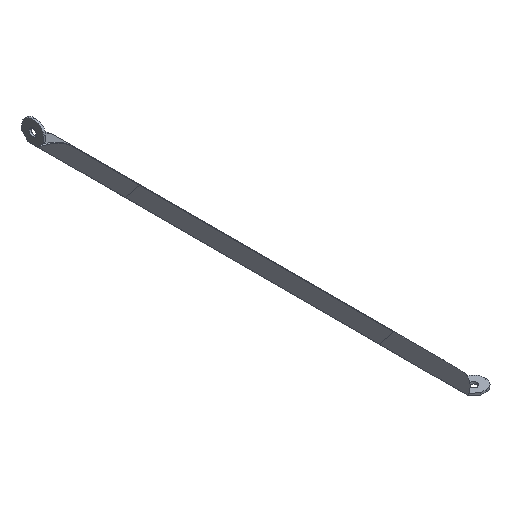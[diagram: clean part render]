
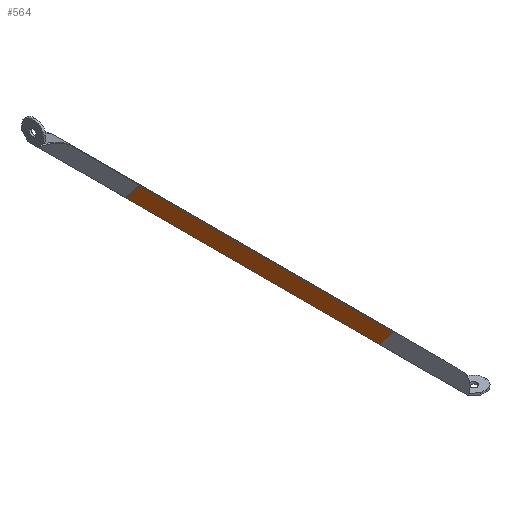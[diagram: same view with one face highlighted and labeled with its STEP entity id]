
A CAD part, isometric view. The second image highlights one B-rep face of the part: STEP entity #564.
In plain terms, the highlighted planar face has unit normal (-0.272, -0.923, -0.272).
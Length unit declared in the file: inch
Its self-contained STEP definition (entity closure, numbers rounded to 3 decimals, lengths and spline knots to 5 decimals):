
#564=ADVANCED_FACE('',(#1226),#1227,.T.);
#690=EDGE_CURVE('',#1170,#1236,#1375,.T.);
#1170=VERTEX_POINT('',#2280);
#1226=FACE_OUTER_BOUND('',#2397,.T.);
#1227=PLANE('',#2398);
#1236=VERTEX_POINT('',#2412);
#1375=LINE('',#2711,#2712);
#2280=CARTESIAN_POINT('',(-6.38256,0.02943,7.19519));
#2397=EDGE_LOOP('',(#3441,#3442,#3443,#3444));
#2398=AXIS2_PLACEMENT_3D('',#3445,#3446,#3447);
#2412=CARTESIAN_POINT('',(-7.02499,0.40872,6.55276));
#2711=CARTESIAN_POINT('',(-7.02385,0.40805,6.5539));
#2712=VECTOR('',#3623,1.0);
#3441=ORIENTED_EDGE('',*,*,#3779,.T.);
#3442=ORIENTED_EDGE('',*,*,#3783,.F.);
#3443=ORIENTED_EDGE('',*,*,#690,.T.);
#3444=ORIENTED_EDGE('',*,*,#3760,.T.);
#3445=CARTESIAN_POINT('',(-6.70377,0.21907,6.87398));
#3446=DIRECTION('',(-0.272,-0.923,-0.272));
#3447=DIRECTION('',(-0.653,0.385,-0.653));
#3623=DIRECTION('',(-0.653,0.385,-0.653));
#3760=EDGE_CURVE('',#1236,#3856,#3858,.T.);
#3779=EDGE_CURVE('',#3856,#3876,#3878,.T.);
#3783=EDGE_CURVE('',#1170,#3876,#3882,.T.);
#3856=VERTEX_POINT('',#3963);
#3858=LINE('',#3966,#3967);
#3876=VERTEX_POINT('',#3985);
#3878=LINE('',#3988,#3989);
#3882=LINE('',#3994,#3995);
#3963=CARTESIAN_POINT('',(11.15177,0.40872,-11.62402));
#3966=CARTESIAN_POINT('',(-7.02499,0.40872,6.55276));
#3967=VECTOR('',#4042,1.0);
#3985=CARTESIAN_POINT('',(11.7942,0.02943,-10.9816));
#3988=CARTESIAN_POINT('',(11.15291,0.40805,-11.62289));
#3989=VECTOR('',#4044,1.0);
#3994=CARTESIAN_POINT('',(-6.38256,0.02943,7.19519));
#3995=VECTOR('',#4046,1.0);
#4042=DIRECTION('',(0.707,0.,-0.707));
#4044=DIRECTION('',(0.653,-0.385,0.653));
#4046=DIRECTION('',(0.707,0.,-0.707));
